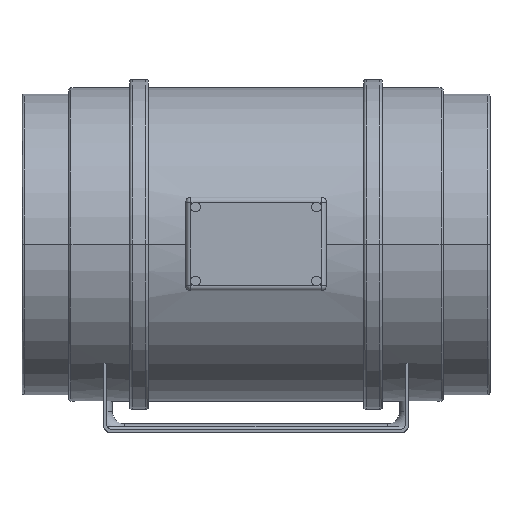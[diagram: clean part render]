
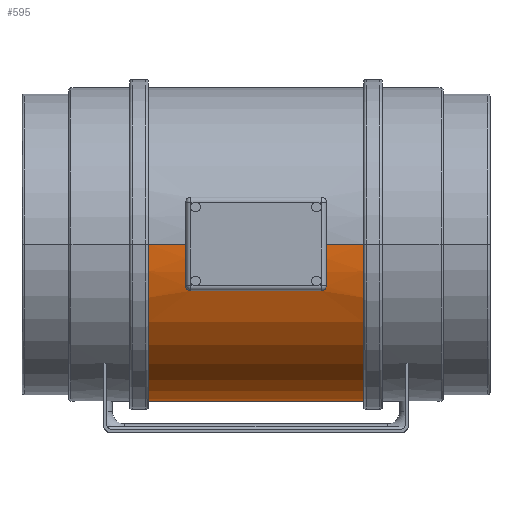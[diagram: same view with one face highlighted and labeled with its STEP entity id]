
A CAD part, top view. The second image highlights one B-rep face of the part: STEP entity #595.
In plain terms, the highlighted cylindrical face has radius 129.2 mm (diameter 258.4 mm), a partial arc.
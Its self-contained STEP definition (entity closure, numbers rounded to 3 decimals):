
#595=ADVANCED_FACE('',(#1214),#1215,.T.);
#1214=FACE_OUTER_BOUND('',#1832,.T.);
#1215=CYLINDRICAL_SURFACE('',#1833,129.2);
#1832=EDGE_LOOP('',(#3634,#3635,#3636,#3637,#3638,#3639,#3640,#3641,#3642,#3643));
#1833=AXIS2_PLACEMENT_3D('',#3644,#3645,#3646);
#3634=ORIENTED_EDGE('',*,*,#3750,.T.);
#3635=ORIENTED_EDGE('',*,*,#4302,.T.);
#3636=ORIENTED_EDGE('',*,*,#3758,.T.);
#3637=ORIENTED_EDGE('',*,*,#4401,.T.);
#3638=ORIENTED_EDGE('',*,*,#4403,.T.);
#3639=ORIENTED_EDGE('',*,*,#4406,.T.);
#3640=ORIENTED_EDGE('',*,*,#4347,.T.);
#3641=ORIENTED_EDGE('',*,*,#4343,.T.);
#3642=ORIENTED_EDGE('',*,*,#3752,.T.);
#3643=ORIENTED_EDGE('',*,*,#4320,.T.);
#3644=CARTESIAN_POINT('',(0.0,0.0,0.0));
#3645=DIRECTION('',(1.0,0.0,0.0));
#3646=DIRECTION('',(0.0,0.0,-1.0));
#3750=EDGE_CURVE('',#4515,#4516,#4517,.T.);
#3752=EDGE_CURVE('',#4520,#4518,#4521,.T.);
#3758=EDGE_CURVE('',#4532,#4530,#4533,.T.);
#4302=EDGE_CURVE('',#4516,#4532,#5347,.T.);
#4320=EDGE_CURVE('',#4518,#4515,#5370,.T.);
#4343=EDGE_CURVE('',#5400,#4520,#5401,.T.);
#4347=EDGE_CURVE('',#5406,#5400,#5407,.T.);
#4401=EDGE_CURVE('',#4530,#5470,#5472,.T.);
#4403=EDGE_CURVE('',#5470,#5474,#5475,.T.);
#4406=EDGE_CURVE('',#5474,#5406,#5478,.T.);
#4515=VERTEX_POINT('',#5769);
#4516=VERTEX_POINT('',#5770);
#4517=LINE('',#5771,#5772);
#4518=VERTEX_POINT('',#5773);
#4520=VERTEX_POINT('',#5775);
#4521=LINE('',#5776,#5777);
#4530=VERTEX_POINT('',#5829);
#4532=VERTEX_POINT('',#5831);
#4533=LINE('',#5832,#5833);
#5347=CIRCLE('',#9441,129.2);
#5370=CIRCLE('',#9464,129.2);
#5400=VERTEX_POINT('',#9498);
#5401=CIRCLE('',#9499,129.2);
#5406=VERTEX_POINT('',#9506);
#5407=B_SPLINE_CURVE_WITH_KNOTS('',3,(#9507,#9508,#9509,#9510,#9511,#9512,#9513,#9514,#9515,#9516,#9517,#9518,#9519,#9520,#9521,#9522,#9523,#9524,#9525,#9526,#9527,#9528,#9529),.UNSPECIFIED.,.F.,.F.,(4,3,2,2,2,2,2,2,2,2,4),(-0.752,0.0,0.752,1.505,2.257,3.009,3.796,4.582,5.368,6.154,6.935),.UNSPECIFIED.);
#5470=VERTEX_POINT('',#9608);
#5472=CIRCLE('',#9611,129.2);
#5474=VERTEX_POINT('',#9613);
#5475=B_SPLINE_CURVE_WITH_KNOTS('',3,(#9614,#9615,#9616,#9617,#9618,#9619,#9620,#9621,#9622,#9623,#9624,#9625,#9626,#9627,#9628,#9629,#9630,#9631,#9632,#9633,#9634,#9635,#9636),.UNSPECIFIED.,.F.,.F.,(4,2,2,2,2,2,2,2,2,3,4),(-6.935,-6.154,-5.368,-4.582,-3.796,-3.009,-2.257,-1.505,-0.752,0.0,0.752),.UNSPECIFIED.);
#5478=LINE('',#9640,#9641);
#5769=CARTESIAN_POINT('',(-88.78,0.,-129.2));
#5770=CARTESIAN_POINT('',(88.78,0.,-129.2));
#5771=CARTESIAN_POINT('',(0.0,0.,-129.2));
#5772=VECTOR('',#9743,1.0);
#5773=CARTESIAN_POINT('',(-88.78,0.,129.2));
#5775=CARTESIAN_POINT('',(-57.9,0.,129.2));
#5776=CARTESIAN_POINT('',(0.0,0.,129.2));
#5777=VECTOR('',#9747,1.0);
#5829=CARTESIAN_POINT('',(57.9,0.,129.2));
#5831=CARTESIAN_POINT('',(88.78,0.,129.2));
#5832=CARTESIAN_POINT('',(0.0,0.,129.2));
#5833=VECTOR('',#9755,1.0);
#9441=AXIS2_PLACEMENT_3D('',#10448,#10449,#10450);
#9464=AXIS2_PLACEMENT_3D('',#10484,#10485,#10486);
#9498=CARTESIAN_POINT('',(-57.9,-34.6,124.481));
#9499=AXIS2_PLACEMENT_3D('',#10521,#10522,#10523);
#9506=CARTESIAN_POINT('',(-53.9,-38.6,123.299));
#9507=CARTESIAN_POINT('',(-53.133,-38.526,123.322));
#9508=CARTESIAN_POINT('',(-53.39,-38.576,123.307));
#9509=CARTESIAN_POINT('',(-53.649,-38.6,123.299));
#9510=CARTESIAN_POINT('',(-53.9,-38.6,123.299));
#9511=CARTESIAN_POINT('',(-54.151,-38.6,123.299));
#9512=CARTESIAN_POINT('',(-54.41,-38.576,123.307));
#9513=CARTESIAN_POINT('',(-54.924,-38.476,123.338));
#9514=CARTESIAN_POINT('',(-55.179,-38.399,123.362));
#9515=CARTESIAN_POINT('',(-55.667,-38.198,123.424));
#9516=CARTESIAN_POINT('',(-55.901,-38.073,123.463));
#9517=CARTESIAN_POINT('',(-56.333,-37.786,123.551));
#9518=CARTESIAN_POINT('',(-56.53,-37.624,123.601));
#9519=CARTESIAN_POINT('',(-56.888,-37.272,123.707));
#9520=CARTESIAN_POINT('',(-57.059,-37.069,123.768));
#9521=CARTESIAN_POINT('',(-57.358,-36.627,123.9));
#9522=CARTESIAN_POINT('',(-57.488,-36.389,123.97));
#9523=CARTESIAN_POINT('',(-57.695,-35.892,124.115));
#9524=CARTESIAN_POINT('',(-57.773,-35.634,124.189));
#9525=CARTESIAN_POINT('',(-57.876,-35.114,124.337));
#9526=CARTESIAN_POINT('',(-57.9,-34.853,124.411));
#9527=CARTESIAN_POINT('',(-57.9,-34.349,124.551));
#9528=CARTESIAN_POINT('',(-57.876,-34.089,124.622));
#9529=CARTESIAN_POINT('',(-57.825,-33.83,124.692));
#9608=CARTESIAN_POINT('',(57.9,-34.6,124.481));
#9611=AXIS2_PLACEMENT_3D('',#10594,#10595,#10596);
#9613=CARTESIAN_POINT('',(53.9,-38.6,123.299));
#9614=CARTESIAN_POINT('',(57.825,-33.83,124.692));
#9615=CARTESIAN_POINT('',(57.876,-34.089,124.622));
#9616=CARTESIAN_POINT('',(57.9,-34.349,124.551));
#9617=CARTESIAN_POINT('',(57.9,-34.853,124.411));
#9618=CARTESIAN_POINT('',(57.876,-35.114,124.337));
#9619=CARTESIAN_POINT('',(57.773,-35.634,124.189));
#9620=CARTESIAN_POINT('',(57.695,-35.892,124.115));
#9621=CARTESIAN_POINT('',(57.488,-36.389,123.97));
#9622=CARTESIAN_POINT('',(57.358,-36.627,123.9));
#9623=CARTESIAN_POINT('',(57.059,-37.069,123.768));
#9624=CARTESIAN_POINT('',(56.888,-37.272,123.707));
#9625=CARTESIAN_POINT('',(56.53,-37.624,123.601));
#9626=CARTESIAN_POINT('',(56.333,-37.786,123.551));
#9627=CARTESIAN_POINT('',(55.901,-38.073,123.463));
#9628=CARTESIAN_POINT('',(55.667,-38.198,123.424));
#9629=CARTESIAN_POINT('',(55.179,-38.399,123.362));
#9630=CARTESIAN_POINT('',(54.924,-38.476,123.338));
#9631=CARTESIAN_POINT('',(54.41,-38.576,123.307));
#9632=CARTESIAN_POINT('',(54.151,-38.6,123.299));
#9633=CARTESIAN_POINT('',(53.9,-38.6,123.299));
#9634=CARTESIAN_POINT('',(53.649,-38.6,123.299));
#9635=CARTESIAN_POINT('',(53.39,-38.576,123.307));
#9636=CARTESIAN_POINT('',(53.133,-38.526,123.322));
#9640=CARTESIAN_POINT('',(0.,-38.6,123.299));
#9641=VECTOR('',#10598,1.0);
#9743=DIRECTION('',(1.0,0.0,0.0));
#9747=DIRECTION('',(-1.0,-0.0,-0.0));
#9755=DIRECTION('',(-1.0,-0.0,-0.0));
#10448=CARTESIAN_POINT('',(88.78,0.0,0.0));
#10449=DIRECTION('',(-1.0,0.0,0.));
#10450=DIRECTION('',(0.,0.0,-1.0));
#10484=CARTESIAN_POINT('',(-88.78,0.0,0.0));
#10485=DIRECTION('',(1.0,0.0,0.0));
#10486=DIRECTION('',(0.0,0.0,-1.0));
#10521=CARTESIAN_POINT('',(-57.9,0.0,0.0));
#10522=DIRECTION('',(-1.0,0.,0.0));
#10523=DIRECTION('',(0.0,0.0,-1.0));
#10594=CARTESIAN_POINT('',(57.9,0.0,0.0));
#10595=DIRECTION('',(1.0,0.,0.0));
#10596=DIRECTION('',(0.0,0.0,-1.0));
#10598=DIRECTION('',(-1.0,-0.0,0.0));
